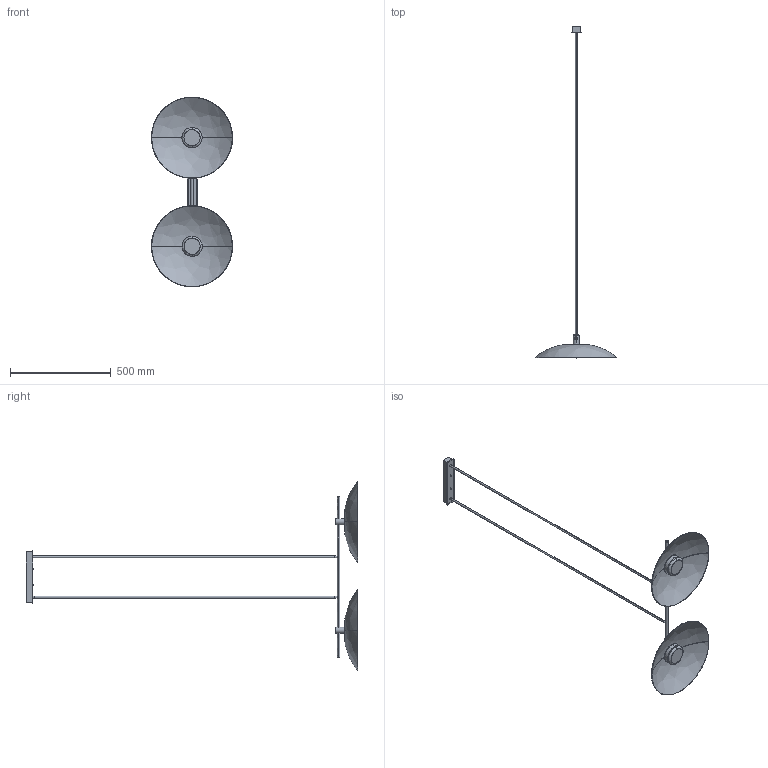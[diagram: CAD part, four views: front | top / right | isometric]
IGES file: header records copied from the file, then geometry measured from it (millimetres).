
Start section: SolidWorks IGES file using analytic representation for surfaces
Global section: file name: C:\Users\Agustin\Desktop\ENERO 2025\2D-3D\2D-3D BETTY_1338\BETTY_C1338_2\BETTY_C1338_2.IGS; native system: SolidWorks 2018; preprocessor: SolidWorks 2018; author: Agustin; date: 250117.160547; units: millimetre
Bounding box: 402.89 x 1645.98 x 941.32 mm (x, y, z)
Surface area: 928416.9 mm2 (no closed solid volume)
Topology: 0 solids, 0 shells, 114 faces, 2212 edges, 2204 vertices
Faces by surface type: bspline 70, revolution 44
